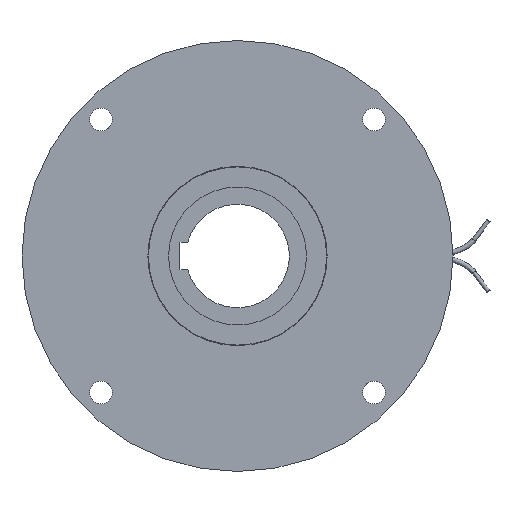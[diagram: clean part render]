
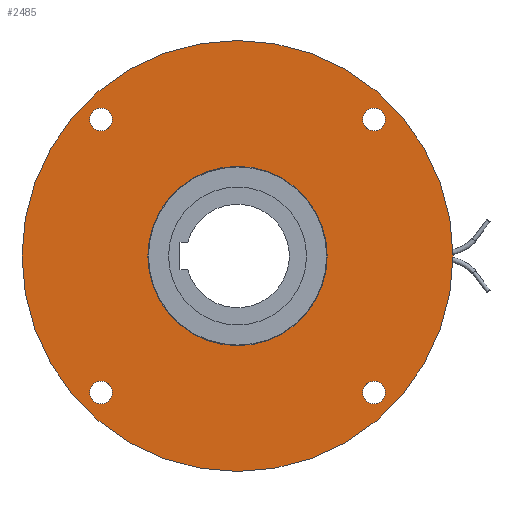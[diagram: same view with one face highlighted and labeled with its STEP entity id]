
A CAD part, left-side view. The second image highlights one B-rep face of the part: STEP entity #2485.
In plain terms, the highlighted planar face has unit normal (-1, 0, 0).
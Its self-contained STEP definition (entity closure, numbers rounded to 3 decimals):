
#81=FACE_BOUND('',#671,.T.);
#82=FACE_BOUND('',#672,.T.);
#83=FACE_BOUND('',#673,.T.);
#84=FACE_BOUND('',#674,.T.);
#85=FACE_BOUND('',#675,.T.);
#369=PLANE('',#2709);
#467=FACE_OUTER_BOUND('',#670,.T.);
#670=EDGE_LOOP('',(#1727));
#671=EDGE_LOOP('',(#1728));
#672=EDGE_LOOP('',(#1729));
#673=EDGE_LOOP('',(#1730));
#674=EDGE_LOOP('',(#1731));
#675=EDGE_LOOP('',(#1732));
#938=CIRCLE('',#2674,3.3);
#940=CIRCLE('',#2677,3.3);
#942=CIRCLE('',#2680,3.3);
#944=CIRCLE('',#2683,3.3);
#947=CIRCLE('',#2687,62.5);
#957=CIRCLE('',#2708,26.);
#1119=VERTEX_POINT('',#4047);
#1121=VERTEX_POINT('',#4052);
#1123=VERTEX_POINT('',#4057);
#1125=VERTEX_POINT('',#4062);
#1128=VERTEX_POINT('',#4069);
#1138=VERTEX_POINT('',#4100);
#1358=EDGE_CURVE('',#1119,#1119,#938,.T.);
#1360=EDGE_CURVE('',#1121,#1121,#940,.T.);
#1362=EDGE_CURVE('',#1123,#1123,#942,.T.);
#1364=EDGE_CURVE('',#1125,#1125,#944,.T.);
#1367=EDGE_CURVE('',#1128,#1128,#947,.T.);
#1377=EDGE_CURVE('',#1138,#1138,#957,.T.);
#1727=ORIENTED_EDGE('',*,*,#1367,.F.);
#1728=ORIENTED_EDGE('',*,*,#1358,.T.);
#1729=ORIENTED_EDGE('',*,*,#1360,.T.);
#1730=ORIENTED_EDGE('',*,*,#1362,.T.);
#1731=ORIENTED_EDGE('',*,*,#1364,.T.);
#1732=ORIENTED_EDGE('',*,*,#1377,.T.);
#2485=ADVANCED_FACE('',(#467,#81,#82,#83,#84,#85),#369,.T.);
#2674=AXIS2_PLACEMENT_3D('',#4048,#3079,#3080);
#2677=AXIS2_PLACEMENT_3D('',#4053,#3085,#3086);
#2680=AXIS2_PLACEMENT_3D('',#4058,#3091,#3092);
#2683=AXIS2_PLACEMENT_3D('',#4063,#3097,#3098);
#2687=AXIS2_PLACEMENT_3D('',#4070,#3105,#3106);
#2708=AXIS2_PLACEMENT_3D('',#4101,#3147,#3148);
#2709=AXIS2_PLACEMENT_3D('',#4102,#3149,#3150);
#3079=DIRECTION('center_axis',(1.,0.,0.));
#3080=DIRECTION('ref_axis',(0.,0.,-1.));
#3085=DIRECTION('center_axis',(1.,0.,0.));
#3086=DIRECTION('ref_axis',(0.,0.,-1.));
#3091=DIRECTION('center_axis',(1.,0.,0.));
#3092=DIRECTION('ref_axis',(0.,0.,-1.));
#3097=DIRECTION('center_axis',(1.,0.,0.));
#3098=DIRECTION('ref_axis',(0.,0.,-1.));
#3105=DIRECTION('center_axis',(1.,0.,0.));
#3106=DIRECTION('ref_axis',(0.,0.,-1.));
#3147=DIRECTION('center_axis',(1.,0.,0.));
#3148=DIRECTION('ref_axis',(0.,0.,-1.));
#3149=DIRECTION('center_axis',(-1.,0.,0.));
#3150=DIRECTION('ref_axis',(0.,0.,1.));
#4047=CARTESIAN_POINT('',(-11.,-39.598,-36.298));
#4048=CARTESIAN_POINT('Origin',(-11.,-39.598,-39.598));
#4052=CARTESIAN_POINT('',(-11.,39.598,42.898));
#4053=CARTESIAN_POINT('Origin',(-11.,39.598,39.598));
#4057=CARTESIAN_POINT('',(-11.,-39.598,42.898));
#4058=CARTESIAN_POINT('Origin',(-11.,-39.598,39.598));
#4062=CARTESIAN_POINT('',(-11.,39.598,-36.298));
#4063=CARTESIAN_POINT('Origin',(-11.,39.598,-39.598));
#4069=CARTESIAN_POINT('',(-11.,62.5,0.));
#4070=CARTESIAN_POINT('Origin',(-11.,0.,0.));
#4100=CARTESIAN_POINT('',(-11.,26.,0.));
#4101=CARTESIAN_POINT('Origin',(-11.,0.,0.));
#4102=CARTESIAN_POINT('Origin',(-11.,62.5,0.));
